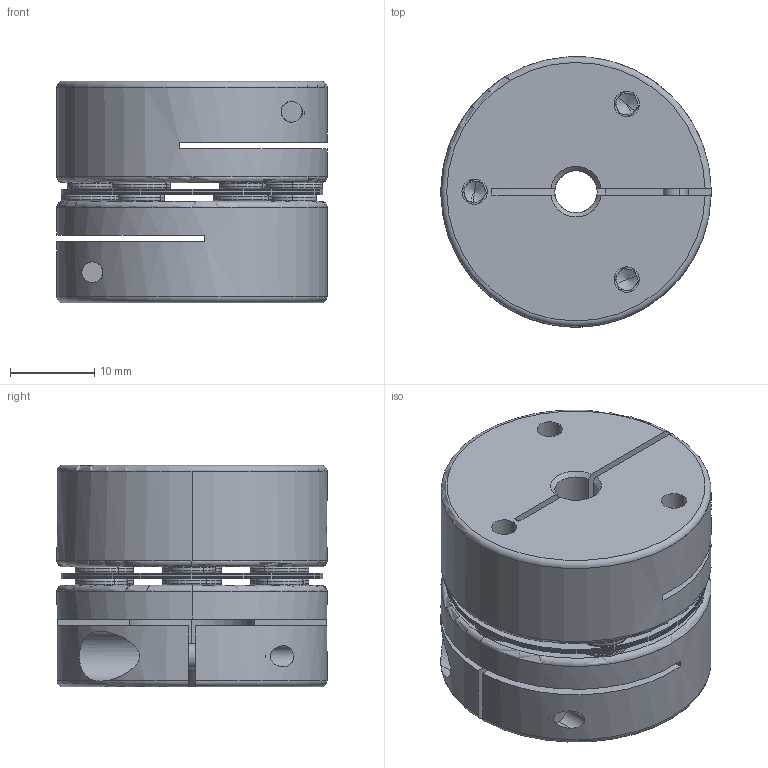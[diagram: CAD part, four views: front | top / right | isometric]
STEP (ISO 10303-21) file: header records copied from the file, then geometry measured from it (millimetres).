
FILE_DESCRIPTION (( 'STEP AP203' ), '1' );
FILE_NAME ('SADS-32C.STEP', '2020-09-10T08:53:18', ( '' ), ( '' ), 'SwSTEP 2.0', 'SolidWorks 2017', '' );
FILE_SCHEMA (( 'CONFIG_CONTROL_DESIGN' ));
Length unit declared in the file: metre
Products named in the file (1): SADS-32C
Bounding box: 32 x 32 x 26.2 mm (x, y, z)
Volume: 15800.4 mm3; surface area: 15548.9 mm2
Topology: 26 solids, 26 shells, 654 faces, 1510 edges, 896 vertices
Faces by surface type: cylinder 235, plane 181, cone 130, torus 102, bspline 6
Entity records: 19491 total; most frequent: CARTESIAN_POINT 4053, DIRECTION 3530, ORIENTED_EDGE 2972, EDGE_CURVE 1486, AXIS2_PLACEMENT_3D 1469, VERTEX_POINT 896, CIRCLE 820, EDGE_LOOP 784
